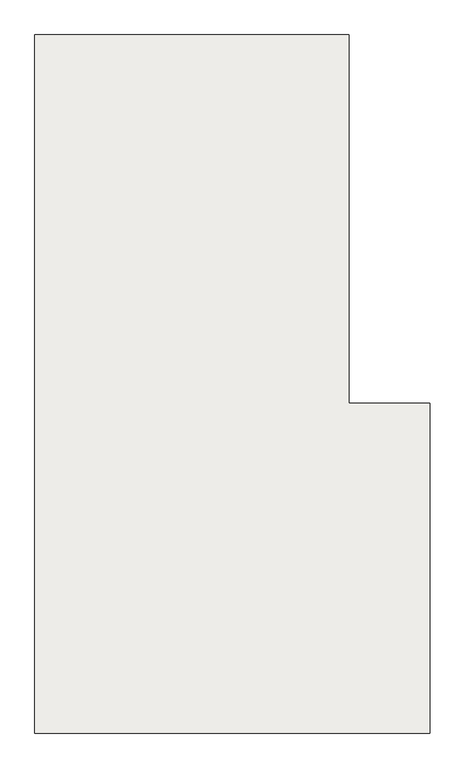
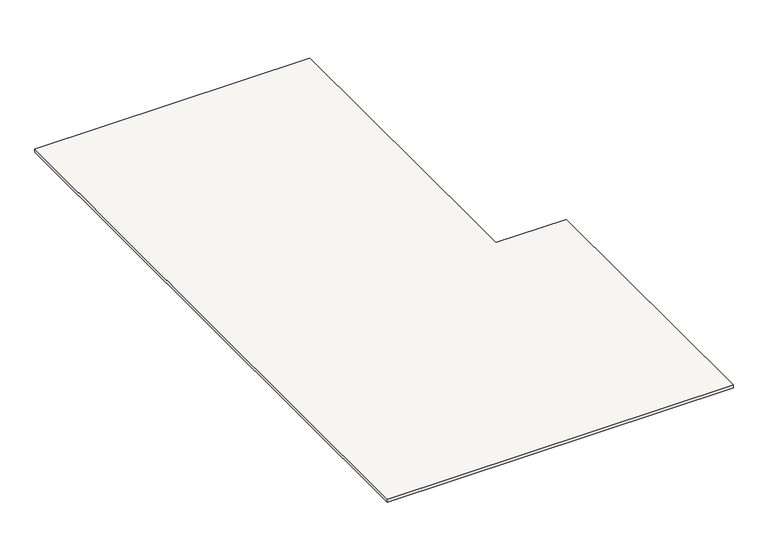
"""IFC4 building model written with IfcOpenShell, lengths in millimetres: slab geometry, ESTANDAR."""

from ifc_helpers import new_model, si_unit, frame, origin, place, context, project, spatial, polyline, outline, extrude, source, transform, mapped, element, save


def slab_0179b9b1(model_context):
    return source(origin(), model_context, "Body", "SweptSolid", [
        extrude(outline(polyline([(4604.7173693, 23325.2304035), (4604.7173693, 23190.2304035), (4890.7173693, 23190.2304035), (4890.7173693, 22020.2304035), (3489.7173693, 22020.2304035), (3489.7173693, 24495.2304035), (4604.7173693, 24495.2304035), (4604.7173693, 23325.2304035)])), frame((0.0, 0.0, 1729.6052632), z_axis=(0.0, 0.0, 1.0), x_axis=(1.0, 0.0, 0.0)), (0.0, 0.0, 1.0), 12.5),
    ])


if __name__ == "__main__":
    model = new_model("IFC4")
    model_context = context("Model", 3, world=origin())
    ifc_project = project(units=[si_unit("LENGTHUNIT", "METRE", prefix="MILLI")], contexts=[model_context])
    site = spatial("IfcSite", under=ifc_project)
    building = spatial("IfcBuilding", under=site)
    placement = place(None, origin())
    slab_shape = slab_0179b9b1(model_context)
    element("IfcSlab", 1, ObjectType="ESTANDAR", at=placement, inside=building, context=model_context, shape_type="MappedRepresentation", body=[
        mapped(slab_shape, transform((0.0, 0.0, 0.0), x_axis=(1.0, 0.0, 0.0), y_axis=(0.0, 1.0, 0.0), z_axis=(0.0, 0.0, 1.0))),
    ])
    save(model, "model.ifc")
